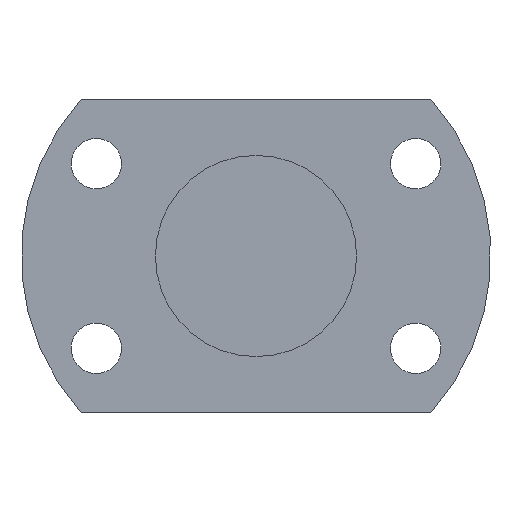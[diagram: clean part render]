
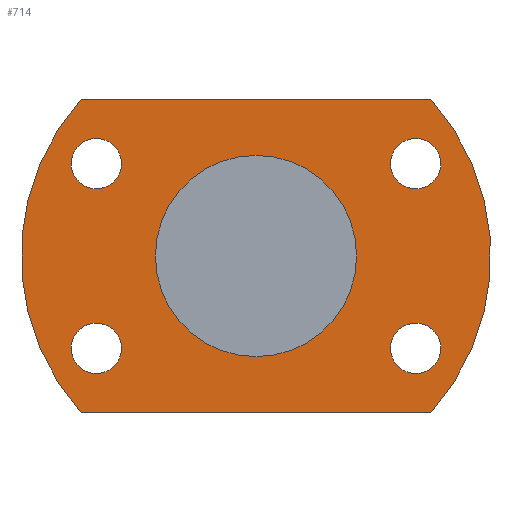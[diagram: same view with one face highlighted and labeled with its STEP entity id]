
A CAD part, left-side view. The second image highlights one B-rep face of the part: STEP entity #714.
In plain terms, the highlighted planar face has unit normal (-1, 0, 0).
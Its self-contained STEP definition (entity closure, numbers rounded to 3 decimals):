
#230=CARTESIAN_POINT('',(120.0,28.579,-12.));
#231=VERTEX_POINT('',#230);
#232=CARTESIAN_POINT('',(120.0,28.579,-16.5));
#233=DIRECTION('',(1.0,0.0,0.0));
#234=DIRECTION('',(0.0,0.0,1.0));
#235=AXIS2_PLACEMENT_3D('',#232,#233,#234);
#236=CIRCLE('',#235,4.5);
#237=EDGE_CURVE('',#231,#231,#236,.T.);
#279=CARTESIAN_POINT('',(120.0,-28.579,21.));
#280=VERTEX_POINT('',#279);
#281=CARTESIAN_POINT('',(120.0,-28.579,16.5));
#282=DIRECTION('',(1.0,0.0,0.0));
#283=DIRECTION('',(0.0,0.0,1.0));
#284=AXIS2_PLACEMENT_3D('',#281,#282,#283);
#285=CIRCLE('',#284,4.5);
#286=EDGE_CURVE('',#280,#280,#285,.T.);
#328=CARTESIAN_POINT('',(120.0,-28.579,-12.));
#329=VERTEX_POINT('',#328);
#330=CARTESIAN_POINT('',(120.0,-28.579,-16.5));
#331=DIRECTION('',(1.0,0.0,0.0));
#332=DIRECTION('',(0.0,0.0,1.0));
#333=AXIS2_PLACEMENT_3D('',#330,#331,#332);
#334=CIRCLE('',#333,4.5);
#335=EDGE_CURVE('',#329,#329,#334,.T.);
#377=CARTESIAN_POINT('',(120.0,28.579,21.));
#378=VERTEX_POINT('',#377);
#379=CARTESIAN_POINT('',(120.0,28.579,16.5));
#380=DIRECTION('',(1.0,0.0,0.0));
#381=DIRECTION('',(0.0,0.0,1.0));
#382=AXIS2_PLACEMENT_3D('',#379,#380,#381);
#383=CIRCLE('',#382,4.5);
#384=EDGE_CURVE('',#378,#378,#383,.T.);
#548=CARTESIAN_POINT('',(120.0,-31.305,-28.));
#549=VERTEX_POINT('',#548);
#556=CARTESIAN_POINT('',(120.0,31.305,-28.));
#557=VERTEX_POINT('',#556);
#558=CARTESIAN_POINT('',(120.0,31.305,-28.));
#559=DIRECTION('',(0.0,-1.0,0.0));
#560=VECTOR('',#559,62.61);
#561=LINE('',#558,#560);
#562=EDGE_CURVE('',#557,#549,#561,.T.);
#579=CARTESIAN_POINT('',(120.0,-31.305,28.));
#580=VERTEX_POINT('',#579);
#587=CARTESIAN_POINT('',(120.0,0.0,0.0));
#588=DIRECTION('',(-1.0,0.0,0.0));
#589=DIRECTION('',(0.0,0.0,1.0));
#590=AXIS2_PLACEMENT_3D('',#587,#588,#589);
#591=CIRCLE('',#590,42.0);
#592=EDGE_CURVE('',#549,#580,#591,.T.);
#604=CARTESIAN_POINT('',(120.0,31.305,28.));
#605=VERTEX_POINT('',#604);
#612=CARTESIAN_POINT('',(120.0,-31.305,28.));
#613=DIRECTION('',(0.0,1.0,0.0));
#614=VECTOR('',#613,62.61);
#615=LINE('',#612,#614);
#616=EDGE_CURVE('',#580,#605,#615,.T.);
#629=CARTESIAN_POINT('',(120.0,0.0,0.0));
#630=DIRECTION('',(-1.0,0.0,0.0));
#631=DIRECTION('',(0.0,0.0,1.0));
#632=AXIS2_PLACEMENT_3D('',#629,#630,#631);
#633=CIRCLE('',#632,42.0);
#634=EDGE_CURVE('',#605,#557,#633,.T.);
#680=CARTESIAN_POINT('',(120.0,0.0,22.));
#681=DIRECTION('',(-1.0,0.0,0.0));
#682=DIRECTION('',(0.0,0.0,1.0));
#683=AXIS2_PLACEMENT_3D('',#680,#681,#682);
#684=PLANE('',#683);
#685=ORIENTED_EDGE('',*,*,#634,.T.);
#686=ORIENTED_EDGE('',*,*,#562,.T.);
#687=ORIENTED_EDGE('',*,*,#592,.T.);
#688=ORIENTED_EDGE('',*,*,#616,.T.);
#689=EDGE_LOOP('',(#685,#686,#687,#688));
#690=FACE_OUTER_BOUND('',#689,.T.);
#691=ORIENTED_EDGE('',*,*,#237,.T.);
#692=EDGE_LOOP('',(#691));
#693=FACE_BOUND('',#692,.T.);
#694=ORIENTED_EDGE('',*,*,#286,.T.);
#695=EDGE_LOOP('',(#694));
#696=FACE_BOUND('',#695,.T.);
#697=ORIENTED_EDGE('',*,*,#335,.T.);
#698=EDGE_LOOP('',(#697));
#699=FACE_BOUND('',#698,.T.);
#700=ORIENTED_EDGE('',*,*,#384,.T.);
#701=EDGE_LOOP('',(#700));
#702=FACE_BOUND('',#701,.T.);
#703=CARTESIAN_POINT('',(120.0,0.0,18.));
#704=VERTEX_POINT('',#703);
#705=CARTESIAN_POINT('',(120.0,0.0,0.0));
#706=DIRECTION('',(-1.0,0.0,0.0));
#707=DIRECTION('',(0.0,0.0,1.0));
#708=AXIS2_PLACEMENT_3D('',#705,#706,#707);
#709=CIRCLE('',#708,18.);
#710=EDGE_CURVE('',#704,#704,#709,.T.);
#711=ORIENTED_EDGE('',*,*,#710,.F.);
#712=EDGE_LOOP('',(#711));
#713=FACE_BOUND('',#712,.T.);
#714=ADVANCED_FACE('',(#690,#693,#696,#699,#702,#713),#684,.T.);
